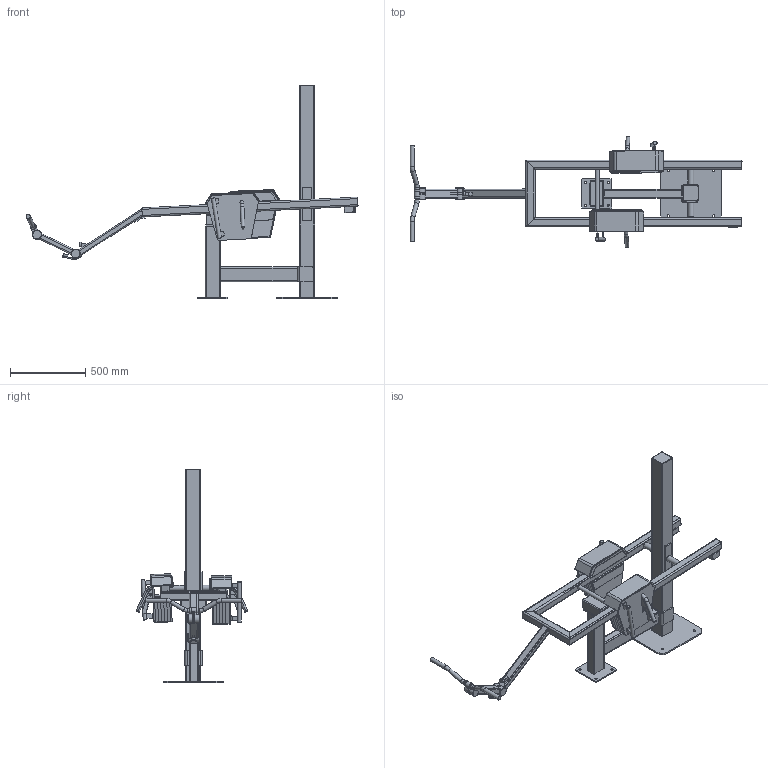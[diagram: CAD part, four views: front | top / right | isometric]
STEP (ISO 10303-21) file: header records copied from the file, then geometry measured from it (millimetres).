
FILE_DESCRIPTION(/* description */ (''),/* implementation_level */ '2;1');
FILE_NAME(/* name */ 'OG70_3D_Low.step',/* time_stamp */ '2025-11-11T16:03:29+02:00',/* author */ (''),/* organization */ (''),/* preprocessor_version */ 'ST-DEVELOPER v20.1',/* originating_system */ 'Autodesk Translation Framework v14.21.0.0',/* authorisation */ '');
FILE_SCHEMA (('AUTOMOTIVE_DESIGN { 1 0 10303 214 3 1 1 }'));
Length unit declared in the file: millimetre
Products named in the file (1): OG70_3D_Low
Bounding box: 2201 x 741.54 x 1413 mm (x, y, z)
Volume: 24428342.5 mm3; surface area: 6397152.8 mm2
Topology: 73 solids, 73 shells, 1294 faces, 3137 edges, 1994 vertices
Faces by surface type: plane 701, cylinder 509, torus 48, bspline 14, sphere 12, cone 10
Full cylindrical faces by diameter (mm): 6.5 x1, 11.8 x1, 13 x31, 14 x4, 16 x4, 25 x2, 28 x6, 28.5 x3, 29 x2, 30 x4, 31 x6, 38.5 x3, 39.8 x2, 40 x4, 60 x4
Entity records: 39337 total; most frequent: CARTESIAN_POINT 7800, DIRECTION 6703, ORIENTED_EDGE 6274, EDGE_CURVE 3137, AXIS2_PLACEMENT_3D 2349, LINE 2005, VECTOR 2005, VERTEX_POINT 1994
